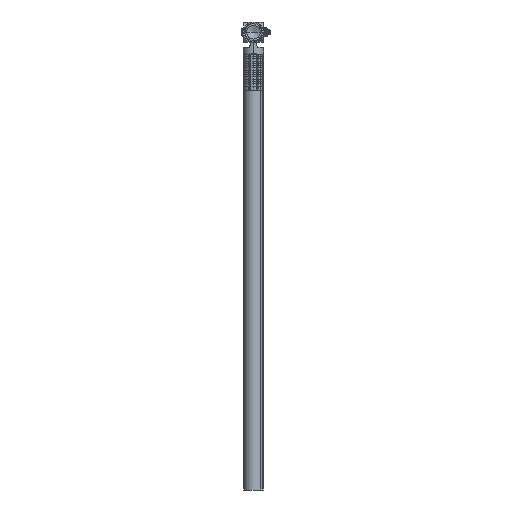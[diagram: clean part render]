
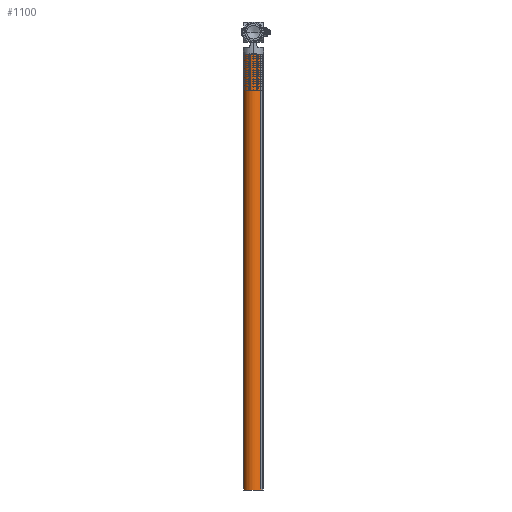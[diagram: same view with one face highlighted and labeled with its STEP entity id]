
A CAD part, left-side view. The second image highlights one B-rep face of the part: STEP entity #1100.
In plain terms, the highlighted cylindrical face has radius 13.716 mm (diameter 27.432 mm), a partial arc.
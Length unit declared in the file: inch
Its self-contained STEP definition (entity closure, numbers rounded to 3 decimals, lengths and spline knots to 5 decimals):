
#244 = DIRECTION ( 'NONE',  ( 0., 0., -1. ) ) ;
#344 = DIRECTION ( 'NONE',  ( 1., 0., 0. ) ) ;
#370 = CARTESIAN_POINT ( 'NONE',  ( 0., 0., 0.54 ) ) ;
#474 = CARTESIAN_POINT ( 'NONE',  ( 0., 0., -0.54 ) ) ;
#773 = DIRECTION ( 'NONE',  ( 1., 0., 0. ) ) ;
#807 = DIRECTION ( 'NONE',  ( 1., 0., 0. ) ) ;
#1017 = EDGE_CURVE ( 'NONE', #8210, #11340, #10984, .T. ) ;
#1042 = EDGE_CURVE ( 'NONE', #16764, #10765, #18391, .T. ) ;
#1086 = FACE_OUTER_BOUND ( 'NONE', #15534, .T. ) ;
#1100 = ADVANCED_FACE ( 'NONE', ( #1086 ), #8573, .T. ) ;
#1208 = EDGE_CURVE ( 'NONE', #11340, #10765, #6554, .T. ) ;
#1381 = CARTESIAN_POINT ( 'NONE',  ( -24., 0., 0. ) ) ;
#2436 = EDGE_CURVE ( 'NONE', #8210, #16764, #19319, .T. ) ;
#3694 = CARTESIAN_POINT ( 'NONE',  ( 0., 0., -0.54 ) ) ;
#4843 = AXIS2_PLACEMENT_3D ( 'NONE', #20046, #19842, #19697 ) ;
#4985 = AXIS2_PLACEMENT_3D ( 'NONE', #1381, #773, #244 ) ;
#5851 = VECTOR ( 'NONE', #344, 39.37008 ) ;
#6455 = ORIENTED_EDGE ( 'NONE', *, *, #2436, .T. ) ;
#6554 = CIRCLE ( 'NONE', #4843, 0.54 ) ;
#8210 = VERTEX_POINT ( 'NONE', #13875 ) ;
#8573 = CYLINDRICAL_SURFACE ( 'NONE', #17844, 0.54 ) ;
#10054 = ORIENTED_EDGE ( 'NONE', *, *, #1017, .F. ) ;
#10765 = VERTEX_POINT ( 'NONE', #11742 ) ;
#10984 = LINE ( 'NONE', #474, #14192 ) ;
#11340 = VERTEX_POINT ( 'NONE', #3694 ) ;
#11742 = CARTESIAN_POINT ( 'NONE',  ( 0., 0., 0.54 ) ) ;
#12574 = DIRECTION ( 'NONE',  ( 0., 0., -1. ) ) ;
#13875 = CARTESIAN_POINT ( 'NONE',  ( -24., 0., -0.54 ) ) ;
#14192 = VECTOR ( 'NONE', #807, 39.37008 ) ;
#14698 = DIRECTION ( 'NONE',  ( 1., 0., 0. ) ) ;
#14979 = ORIENTED_EDGE ( 'NONE', *, *, #1042, .T. ) ;
#15534 = EDGE_LOOP ( 'NONE', ( #6455, #14979, #19012, #10054 ) ) ;
#16145 = CARTESIAN_POINT ( 'NONE',  ( 0., 0., 0. ) ) ;
#16216 = CARTESIAN_POINT ( 'NONE',  ( -24., 0., 0.54 ) ) ;
#16764 = VERTEX_POINT ( 'NONE', #16216 ) ;
#17844 = AXIS2_PLACEMENT_3D ( 'NONE', #16145, #14698, #12574 ) ;
#18391 = LINE ( 'NONE', #370, #5851 ) ;
#19012 = ORIENTED_EDGE ( 'NONE', *, *, #1208, .F. ) ;
#19319 = CIRCLE ( 'NONE', #4985, 0.54 ) ;
#19697 = DIRECTION ( 'NONE',  ( 0., 0., -1. ) ) ;
#19842 = DIRECTION ( 'NONE',  ( 1., 0., 0. ) ) ;
#20046 = CARTESIAN_POINT ( 'NONE',  ( 0., 0., 0. ) ) ;
